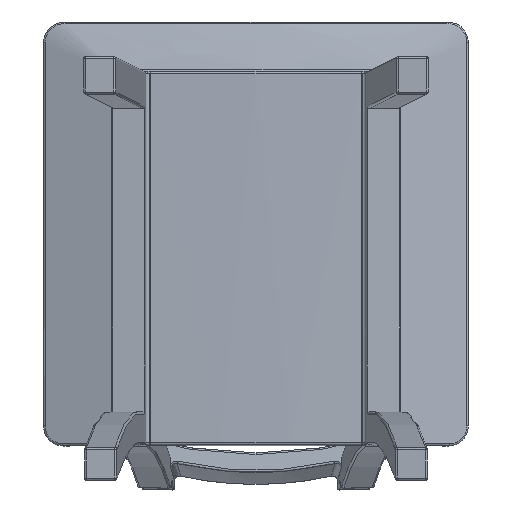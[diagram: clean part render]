
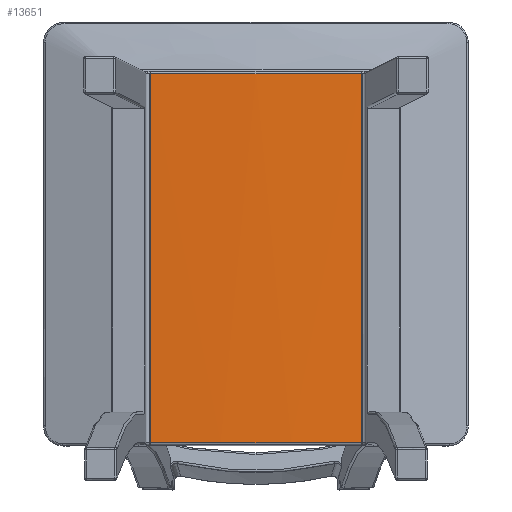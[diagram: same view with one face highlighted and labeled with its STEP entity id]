
A CAD part, front view. The second image highlights one B-rep face of the part: STEP entity #13651.
In plain terms, the highlighted cylindrical face has radius 2236 mm (diameter 4472 mm), a partial arc.
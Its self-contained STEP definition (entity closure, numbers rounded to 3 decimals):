
#42 = VECTOR ( 'NONE', #1356, 1000. ) ;
#341 = CARTESIAN_POINT ( 'NONE',  ( -104.963, 429.905, 410.81 ) ) ;
#380 = EDGE_CURVE ( 'NONE', #13859, #4721, #4132, .T. ) ;
#575 = DIRECTION ( 'NONE',  ( 0., 0.035, 0.999 ) ) ;
#1356 = DIRECTION ( 'NONE',  ( 0., -0.035, -0.999 ) ) ;
#1370 = DIRECTION ( 'NONE',  ( 0., 0.999, -0.035 ) ) ;
#2219 = CARTESIAN_POINT ( 'NONE',  ( 104.963, 417.13, 44.966 ) ) ;
#3342 = CARTESIAN_POINT ( 'NONE',  ( -34.998, 427.442, 410.9 ) ) ;
#3450 = VECTOR ( 'NONE', #4911, 1000. ) ;
#3491 = CARTESIAN_POINT ( 'NONE',  ( 17.507, 427.442, 410.9 ) ) ;
#3611 = EDGE_CURVE ( 'NONE', #3634, #7970, #11303, .T. ) ;
#3634 = VERTEX_POINT ( 'NONE', #6779 ) ;
#3830 = EDGE_LOOP ( 'NONE', ( #6032, #9569, #12589, #11931 ) ) ;
#4132 = B_SPLINE_CURVE_WITH_KNOTS ( 'NONE', 3,
 ( #12810, #15044, #9481, #13888, #3491, #3342, #5740, #8188 ),
 .UNSPECIFIED., .F., .F.,
 ( 4, 2, 2, 4 ),
 ( 0., 0.053, 0.105, 0.21 ),
 .UNSPECIFIED. ) ;
#4217 = EDGE_CURVE ( 'NONE', #4721, #3634, #10493, .T. ) ;
#4721 = VERTEX_POINT ( 'NONE', #341 ) ;
#4889 = CARTESIAN_POINT ( 'NONE',  ( 0., 2688.275, 1083.005 ) ) ;
#4911 = DIRECTION ( 'NONE',  ( 0., -0.035, -0.999 ) ) ;
#5239 = CARTESIAN_POINT ( 'NONE',  ( 0., 2649.304, -32.983 ) ) ;
#5740 = CARTESIAN_POINT ( 'NONE',  ( -69.998, 428.263, 410.869 ) ) ;
#6032 = ORIENTED_EDGE ( 'NONE', *, *, #4217, .T. ) ;
#6076 = LINE ( 'NONE', #10759, #3450 ) ;
#6779 = CARTESIAN_POINT ( 'NONE',  ( -104.963, 417.13, 44.966 ) ) ;
#7207 = CYLINDRICAL_SURFACE ( 'NONE', #8845, 2236. ) ;
#7280 = FACE_OUTER_BOUND ( 'NONE', #3830, .T. ) ;
#7970 = VERTEX_POINT ( 'NONE', #2219 ) ;
#8188 = CARTESIAN_POINT ( 'NONE',  ( -104.963, 429.905, 410.81 ) ) ;
#8845 = AXIS2_PLACEMENT_3D ( 'NONE', #4889, #11893, #1370 ) ;
#9481 = CARTESIAN_POINT ( 'NONE',  ( 69.991, 428.468, 410.862 ) ) ;
#9569 = ORIENTED_EDGE ( 'NONE', *, *, #3611, .T. ) ;
#9923 = DIRECTION ( 'NONE',  ( 0., 0.999, -0.035 ) ) ;
#10493 = LINE ( 'NONE', #10650, #42 ) ;
#10650 = CARTESIAN_POINT ( 'NONE',  ( -104.963, 456.101, 1160.954 ) ) ;
#10748 = EDGE_CURVE ( 'NONE', #13859, #7970, #6076, .T. ) ;
#10759 = CARTESIAN_POINT ( 'NONE',  ( 104.963, 456.101, 1160.954 ) ) ;
#11303 = CIRCLE ( 'NONE', #14988, 2236. ) ;
#11893 = DIRECTION ( 'NONE',  ( 0., -0.035, -0.999 ) ) ;
#11931 = ORIENTED_EDGE ( 'NONE', *, *, #380, .T. ) ;
#12589 = ORIENTED_EDGE ( 'NONE', *, *, #10748, .F. ) ;
#12810 = CARTESIAN_POINT ( 'NONE',  ( 104.963, 429.905, 410.81 ) ) ;
#13651 = ADVANCED_FACE ( 'NONE', ( #7280 ), #7207, .T. ) ;
#13859 = VERTEX_POINT ( 'NONE', #13896 ) ;
#13888 = CARTESIAN_POINT ( 'NONE',  ( 35.005, 427.647, 410.892 ) ) ;
#13896 = CARTESIAN_POINT ( 'NONE',  ( 104.963, 429.905, 410.81 ) ) ;
#14988 = AXIS2_PLACEMENT_3D ( 'NONE', #5239, #575, #9923 ) ;
#15044 = CARTESIAN_POINT ( 'NONE',  ( 87.48, 429.084, 410.84 ) ) ;
